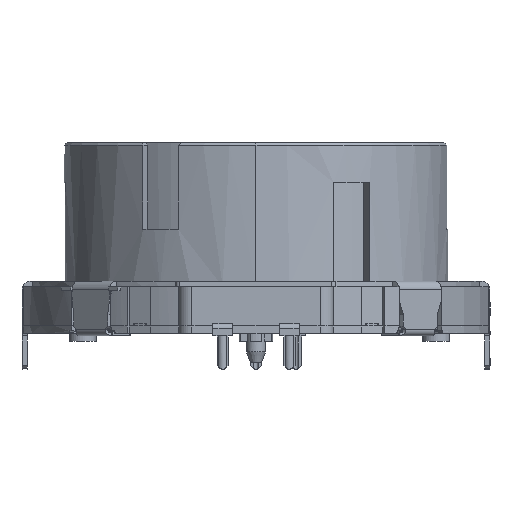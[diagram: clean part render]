
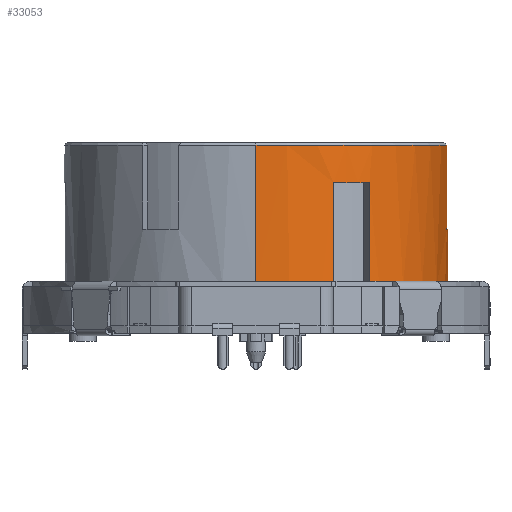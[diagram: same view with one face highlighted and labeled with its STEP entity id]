
A CAD part, front view. The second image highlights one B-rep face of the part: STEP entity #33053.
In plain terms, the highlighted cylindrical face has radius 14.4 mm (diameter 28.8 mm), a partial arc.
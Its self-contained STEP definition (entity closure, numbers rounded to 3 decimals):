
#171 = EDGE_CURVE ( 'NONE', #22225, #12039, #10736, .T. ) ;
#274 = CARTESIAN_POINT ( 'NONE',  ( 0., 14.4, 2.05 ) ) ;
#471 = DIRECTION ( 'NONE',  ( 0., -1., 0. ) ) ;
#617 = DIRECTION ( 'NONE',  ( 0., 0., -1. ) ) ;
#892 = DIRECTION ( 'NONE',  ( 0., 0., -1. ) ) ;
#1380 = FACE_BOUND ( 'NONE', #18210, .T. ) ;
#1434 = VERTEX_POINT ( 'NONE', #35859 ) ;
#1592 = CARTESIAN_POINT ( 'NONE',  ( 8.501, 11.623, 11.9 ) ) ;
#1626 = VECTOR ( 'NONE', #20481, 1000. ) ;
#1731 = VERTEX_POINT ( 'NONE', #7478 ) ;
#1807 = EDGE_CURVE ( 'NONE', #28727, #11925, #36100, .T. ) ;
#2089 = VECTOR ( 'NONE', #15229, 1000. ) ;
#2313 = LINE ( 'NONE', #18885, #10955 ) ;
#2557 = ORIENTED_EDGE ( 'NONE', *, *, #32796, .F. ) ;
#2729 = DIRECTION ( 'NONE',  ( 0., 0., -1. ) ) ;
#2802 = DIRECTION ( 'NONE',  ( 0., 1., 0. ) ) ;
#2980 = VERTEX_POINT ( 'NONE', #31170 ) ;
#3254 = DIRECTION ( 'NONE',  ( 0., 0., -1. ) ) ;
#3572 = DIRECTION ( 'NONE',  ( 0., 0., -1. ) ) ;
#3829 = ORIENTED_EDGE ( 'NONE', *, *, #11501, .T. ) ;
#4303 = ORIENTED_EDGE ( 'NONE', *, *, #24389, .T. ) ;
#4373 = AXIS2_PLACEMENT_3D ( 'NONE', #41606, #22222, #2802 ) ;
#4821 = VECTOR ( 'NONE', #2729, 1000. ) ;
#5393 = LINE ( 'NONE', #274, #37861 ) ;
#5839 = LINE ( 'NONE', #9360, #4821 ) ;
#6044 = ORIENTED_EDGE ( 'NONE', *, *, #171, .T. ) ;
#6361 = ORIENTED_EDGE ( 'NONE', *, *, #21820, .T. ) ;
#6645 = DIRECTION ( 'NONE',  ( 0., -1., 0. ) ) ;
#6823 = VERTEX_POINT ( 'NONE', #7197 ) ;
#7197 = CARTESIAN_POINT ( 'NONE',  ( 14.319, 1.525, 8.4 ) ) ;
#7478 = CARTESIAN_POINT ( 'NONE',  ( 0., -14.4, 14.7 ) ) ;
#7686 = AXIS2_PLACEMENT_3D ( 'NONE', #38460, #19125, #41720 ) ;
#8523 = EDGE_CURVE ( 'NONE', #1434, #31796, #26176, .T. ) ;
#8687 = EDGE_CURVE ( 'NONE', #11925, #22225, #30226, .T. ) ;
#8789 = AXIS2_PLACEMENT_3D ( 'NONE', #37569, #18189, #40806 ) ;
#8801 = CARTESIAN_POINT ( 'NONE',  ( 5.816, 13.173, 4.155 ) ) ;
#8974 = FACE_OUTER_BOUND ( 'NONE', #11802, .T. ) ;
#9014 = AXIS2_PLACEMENT_3D ( 'NONE', #39318, #19975, #471 ) ;
#9360 = CARTESIAN_POINT ( 'NONE',  ( 8.501, -11.623, 2.05 ) ) ;
#10736 = LINE ( 'NONE', #29278, #2089 ) ;
#10955 = VECTOR ( 'NONE', #38204, 1000. ) ;
#11234 = CARTESIAN_POINT ( 'NONE',  ( 8.501, 11.623, 4.155 ) ) ;
#11501 = EDGE_CURVE ( 'NONE', #12039, #28727, #34168, .T. ) ;
#11626 = DIRECTION ( 'NONE',  ( 0., 0., 1. ) ) ;
#11802 = EDGE_LOOP ( 'NONE', ( #27778, #21255, #29641, #2557, #32516, #35934, #35137, #35088 ) ) ;
#11925 = VERTEX_POINT ( 'NONE', #1592 ) ;
#12039 = VERTEX_POINT ( 'NONE', #8801 ) ;
#13204 = ORIENTED_EDGE ( 'NONE', *, *, #8687, .T. ) ;
#13483 = CARTESIAN_POINT ( 'NONE',  ( 0., 0., 14.7 ) ) ;
#13568 = CARTESIAN_POINT ( 'NONE',  ( 0., -14.4, 2.05 ) ) ;
#13867 = AXIS2_PLACEMENT_3D ( 'NONE', #13483, #36137, #16786 ) ;
#14855 = CARTESIAN_POINT ( 'NONE',  ( 8.501, 11.623, 2.05 ) ) ;
#14857 = CARTESIAN_POINT ( 'NONE',  ( 0., 0., 4.1 ) ) ;
#15229 = DIRECTION ( 'NONE',  ( 0., 0., -1. ) ) ;
#15770 = VERTEX_POINT ( 'NONE', #20828 ) ;
#15880 = VERTEX_POINT ( 'NONE', #24493 ) ;
#15968 = LINE ( 'NONE', #16829, #33127 ) ;
#16606 = EDGE_LOOP ( 'NONE', ( #3829, #30276, #13204, #6044 ) ) ;
#16786 = DIRECTION ( 'NONE',  ( 0., -1., 0. ) ) ;
#16829 = CARTESIAN_POINT ( 'NONE',  ( 14.319, -1.525, 8.4 ) ) ;
#17655 = FACE_BOUND ( 'NONE', #16606, .T. ) ;
#18072 = DIRECTION ( 'NONE',  ( 0., 1., 0. ) ) ;
#18095 = AXIS2_PLACEMENT_3D ( 'NONE', #35691, #3254, #6645 ) ;
#18189 = DIRECTION ( 'NONE',  ( 0., 0., 1. ) ) ;
#18210 = EDGE_LOOP ( 'NONE', ( #27730, #4303, #6361, #21526 ) ) ;
#18495 = EDGE_CURVE ( 'NONE', #32436, #15880, #15968, .T. ) ;
#18885 = CARTESIAN_POINT ( 'NONE',  ( 5.816, -13.173, 2.05 ) ) ;
#19125 = DIRECTION ( 'NONE',  ( 0., 0., -1. ) ) ;
#19584 = CARTESIAN_POINT ( 'NONE',  ( 8.501, -11.623, 11.9 ) ) ;
#19964 = LINE ( 'NONE', #30090, #1626 ) ;
#19975 = DIRECTION ( 'NONE',  ( 0., 0., 1. ) ) ;
#20022 = CARTESIAN_POINT ( 'NONE',  ( 8.501, -11.623, 4.155 ) ) ;
#20169 = CIRCLE ( 'NONE', #38080, 14.4 ) ;
#20389 = CARTESIAN_POINT ( 'NONE',  ( 0., 0., 4.155 ) ) ;
#20481 = DIRECTION ( 'NONE',  ( 0., 0., 1. ) ) ;
#20828 = CARTESIAN_POINT ( 'NONE',  ( 5.816, -13.173, 4.155 ) ) ;
#21255 = ORIENTED_EDGE ( 'NONE', *, *, #8523, .T. ) ;
#21526 = ORIENTED_EDGE ( 'NONE', *, *, #35555, .T. ) ;
#21716 = CARTESIAN_POINT ( 'NONE',  ( 14.319, 1.525, 14.7 ) ) ;
#21820 = EDGE_CURVE ( 'NONE', #33110, #15770, #31200, .T. ) ;
#22176 = CYLINDRICAL_SURFACE ( 'NONE', #18095, 14.4 ) ;
#22222 = DIRECTION ( 'NONE',  ( 0., 0., -1. ) ) ;
#22225 = VERTEX_POINT ( 'NONE', #31764 ) ;
#23636 = DIRECTION ( 'NONE',  ( 0., 1., 0. ) ) ;
#23793 = AXIS2_PLACEMENT_3D ( 'NONE', #20389, #892, #23636 ) ;
#24389 = EDGE_CURVE ( 'NONE', #35637, #33110, #5839, .T. ) ;
#24493 = CARTESIAN_POINT ( 'NONE',  ( 14.319, -1.525, 14.7 ) ) ;
#26176 = CIRCLE ( 'NONE', #7686, 14.4 ) ;
#26269 = VERTEX_POINT ( 'NONE', #33317 ) ;
#26444 = VECTOR ( 'NONE', #29415, 1000. ) ;
#27476 = VECTOR ( 'NONE', #617, 1000. ) ;
#27483 = EDGE_CURVE ( 'NONE', #37117, #35637, #20169, .T. ) ;
#27730 = ORIENTED_EDGE ( 'NONE', *, *, #27483, .T. ) ;
#27778 = ORIENTED_EDGE ( 'NONE', *, *, #39487, .F. ) ;
#28171 = EDGE_CURVE ( 'NONE', #2980, #26269, #39743, .T. ) ;
#28595 = CARTESIAN_POINT ( 'NONE',  ( 5.816, -13.173, 11.9 ) ) ;
#28727 = VERTEX_POINT ( 'NONE', #11234 ) ;
#29278 = CARTESIAN_POINT ( 'NONE',  ( 5.816, 13.173, 2.05 ) ) ;
#29344 = CIRCLE ( 'NONE', #8789, 14.4 ) ;
#29415 = DIRECTION ( 'NONE',  ( 0., 0., 1. ) ) ;
#29641 = ORIENTED_EDGE ( 'NONE', *, *, #40609, .F. ) ;
#30090 = CARTESIAN_POINT ( 'NONE',  ( 14.319, 1.525, 8.4 ) ) ;
#30200 = EDGE_CURVE ( 'NONE', #15880, #1731, #37385, .T. ) ;
#30226 = CIRCLE ( 'NONE', #9014, 14.4 ) ;
#30276 = ORIENTED_EDGE ( 'NONE', *, *, #1807, .T. ) ;
#31000 = CARTESIAN_POINT ( 'NONE',  ( 0., 0., 11.9 ) ) ;
#31170 = CARTESIAN_POINT ( 'NONE',  ( 0., 14.4, 4.1 ) ) ;
#31200 = CIRCLE ( 'NONE', #4373, 14.4 ) ;
#31764 = CARTESIAN_POINT ( 'NONE',  ( 5.816, 13.173, 11.9 ) ) ;
#31796 = VERTEX_POINT ( 'NONE', #21716 ) ;
#32084 = EDGE_CURVE ( 'NONE', #1731, #26269, #36084, .T. ) ;
#32436 = VERTEX_POINT ( 'NONE', #38424 ) ;
#32516 = ORIENTED_EDGE ( 'NONE', *, *, #18495, .T. ) ;
#32796 = EDGE_CURVE ( 'NONE', #32436, #6823, #29344, .T. ) ;
#33053 = ADVANCED_FACE ( 'NONE', ( #8974, #17655, #1380 ), #22176, .T. ) ;
#33110 = VERTEX_POINT ( 'NONE', #20022 ) ;
#33127 = VECTOR ( 'NONE', #39426, 1000. ) ;
#33317 = CARTESIAN_POINT ( 'NONE',  ( 0., -14.4, 4.1 ) ) ;
#34168 = CIRCLE ( 'NONE', #23793, 14.4 ) ;
#34230 = DIRECTION ( 'NONE',  ( 0., -1., 0. ) ) ;
#35088 = ORIENTED_EDGE ( 'NONE', *, *, #28171, .F. ) ;
#35137 = ORIENTED_EDGE ( 'NONE', *, *, #32084, .T. ) ;
#35419 = AXIS2_PLACEMENT_3D ( 'NONE', #14857, #37451, #18072 ) ;
#35555 = EDGE_CURVE ( 'NONE', #15770, #37117, #2313, .T. ) ;
#35637 = VERTEX_POINT ( 'NONE', #19584 ) ;
#35691 = CARTESIAN_POINT ( 'NONE',  ( 0., 0., 2.05 ) ) ;
#35859 = CARTESIAN_POINT ( 'NONE',  ( 0., 14.4, 14.7 ) ) ;
#35934 = ORIENTED_EDGE ( 'NONE', *, *, #30200, .T. ) ;
#36084 = LINE ( 'NONE', #13568, #27476 ) ;
#36100 = LINE ( 'NONE', #14855, #26444 ) ;
#36137 = DIRECTION ( 'NONE',  ( 0., 0., -1. ) ) ;
#37117 = VERTEX_POINT ( 'NONE', #28595 ) ;
#37385 = CIRCLE ( 'NONE', #13867, 14.4 ) ;
#37451 = DIRECTION ( 'NONE',  ( 0., 0., -1. ) ) ;
#37569 = CARTESIAN_POINT ( 'NONE',  ( 0., 0., 8.4 ) ) ;
#37861 = VECTOR ( 'NONE', #3572, 1000. ) ;
#38080 = AXIS2_PLACEMENT_3D ( 'NONE', #31000, #11626, #34230 ) ;
#38204 = DIRECTION ( 'NONE',  ( 0., 0., 1. ) ) ;
#38424 = CARTESIAN_POINT ( 'NONE',  ( 14.319, -1.525, 8.4 ) ) ;
#38460 = CARTESIAN_POINT ( 'NONE',  ( 0., 0., 14.7 ) ) ;
#39318 = CARTESIAN_POINT ( 'NONE',  ( 0., 0., 11.9 ) ) ;
#39426 = DIRECTION ( 'NONE',  ( 0., 0., 1. ) ) ;
#39487 = EDGE_CURVE ( 'NONE', #1434, #2980, #5393, .T. ) ;
#39743 = CIRCLE ( 'NONE', #35419, 14.4 ) ;
#40609 = EDGE_CURVE ( 'NONE', #6823, #31796, #19964, .T. ) ;
#40806 = DIRECTION ( 'NONE',  ( 0., 1., 0. ) ) ;
#41606 = CARTESIAN_POINT ( 'NONE',  ( 0., 0., 4.155 ) ) ;
#41720 = DIRECTION ( 'NONE',  ( 0., -1., 0. ) ) ;
